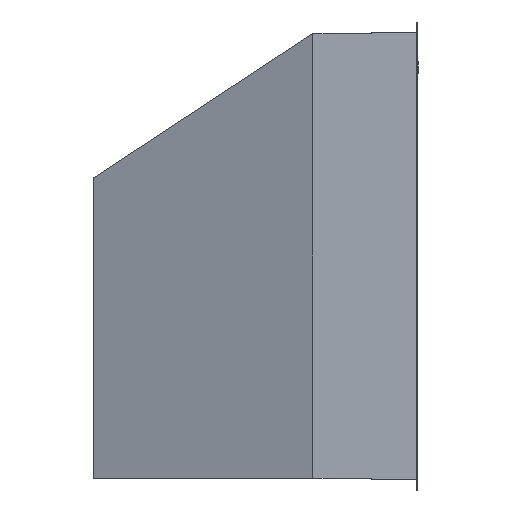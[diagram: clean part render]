
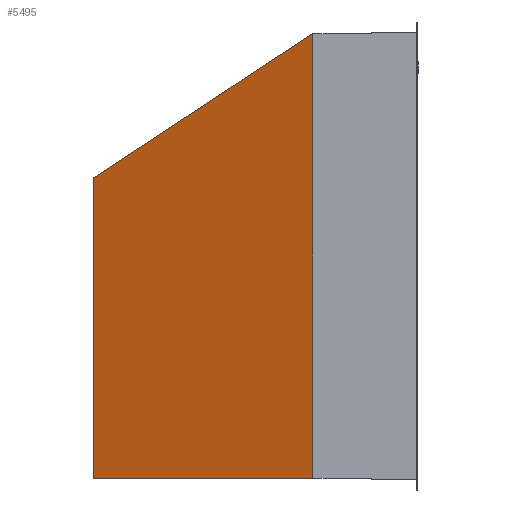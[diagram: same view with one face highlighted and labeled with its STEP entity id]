
A CAD part, left-side view. The second image highlights one B-rep face of the part: STEP entity #5495.
In plain terms, the highlighted planar face has unit normal (-0.94, 0.342, 0).
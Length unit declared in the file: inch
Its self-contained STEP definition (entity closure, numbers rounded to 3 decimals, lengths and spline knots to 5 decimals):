
#361=DIRECTION('',(-0.291,-0.799,0.526));
#362=VECTOR('',#361,11.88563);
#363=CARTESIAN_POINT('',(-16.70578,14.,13.));
#364=LINE('',#363,#362);
#477=DIRECTION('',(-0.342,-0.94,0.));
#478=VECTOR('',#477,10.10969);
#479=CARTESIAN_POINT('',(-16.70578,14.,0.));
#480=LINE('',#479,#478);
#498=DIRECTION('',(0.,0.,1.));
#499=VECTOR('',#498,13.);
#500=CARTESIAN_POINT('',(-16.70578,14.,0.));
#501=LINE('',#500,#499);
#512=DIRECTION('',(0.,0.,1.));
#513=VECTOR('',#512,19.25);
#514=CARTESIAN_POINT('',(-20.1635,4.5,0.));
#515=LINE('',#514,#513);
#4613=CARTESIAN_POINT('',(-20.1635,4.5,0.));
#4614=CARTESIAN_POINT('',(-20.1635,4.5,19.25));
#4615=VERTEX_POINT('',#4613);
#4616=VERTEX_POINT('',#4614);
#4617=CARTESIAN_POINT('',(-16.70578,14.,0.));
#4618=CARTESIAN_POINT('',(-16.70578,14.,13.));
#4619=VERTEX_POINT('',#4617);
#4620=VERTEX_POINT('',#4618);
#5483=CARTESIAN_POINT('',(-16.70578,14.,0.));
#5484=DIRECTION('',(-0.94,0.342,0.));
#5485=DIRECTION('',(-0.342,-0.94,0.));
#5486=AXIS2_PLACEMENT_3D('',#5483,#5484,#5485);
#5487=PLANE('',#5486);
#5489=ORIENTED_EDGE('',*,*,#5488,.F.);
#5490=ORIENTED_EDGE('',*,*,#5460,.F.);
#5491=ORIENTED_EDGE('',*,*,#5476,.T.);
#5492=ORIENTED_EDGE('',*,*,#5343,.T.);
#5493=EDGE_LOOP('',(#5489,#5490,#5491,#5492));
#5494=FACE_OUTER_BOUND('',#5493,.F.);
#5495=ADVANCED_FACE('',(#5494),#5487,.T.);
#5343=EDGE_CURVE('',#4620,#4616,#364,.T.);
#5460=EDGE_CURVE('',#4619,#4615,#480,.T.);
#5476=EDGE_CURVE('',#4619,#4620,#501,.T.);
#5488=EDGE_CURVE('',#4615,#4616,#515,.T.);
